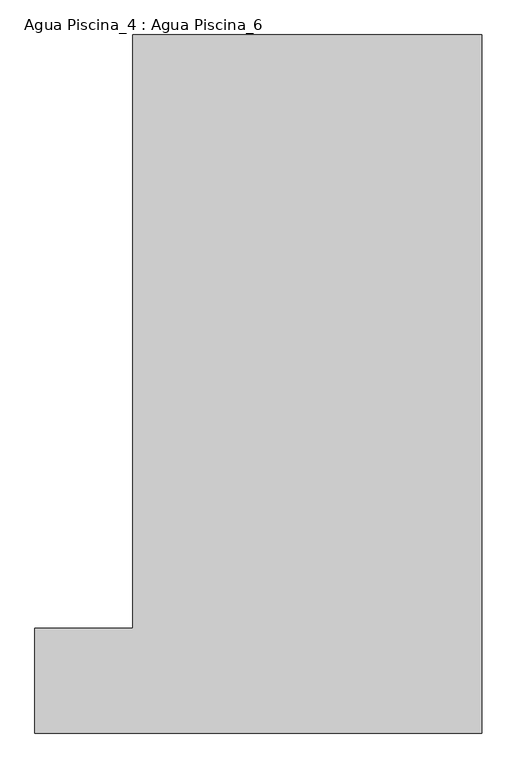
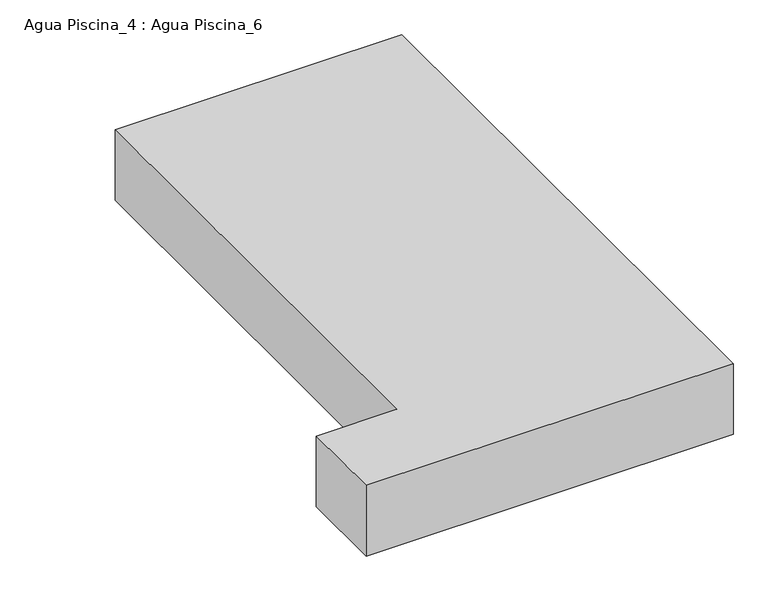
"""IFC4 building model written with IfcOpenShell, lengths in millimetres: proxy geometry, Agua Piscina_4 : Agua Piscina_6."""

from ifc_helpers import new_model, si_unit, frame, origin, place, context, project, spatial, polyline, outline, extrude, source, transform, mapped, element, save


def agua_piscina_4_agua_piscina_6_04886d29(model_context):
    return source(origin(), model_context, "Body", "SweptSolid", [
        extrude(outline(polyline([(14047.3446426, -26751.7608223), (15167.3446426, -26751.7608223), (15167.3446426, -19951.7608223), (19167.3446426, -19951.7608223), (19167.3446426, -27951.7608223), (14047.3446426, -27951.7608223), (14047.3446426, -26751.7608223)])), frame((0.0, 0.0, 16878.9496094), z_axis=(0.0, 0.0, 1.0), x_axis=(1.0, 0.0, 0.0)), (0.0, 0.0, 1.0), 1041.3308372),
    ])


if __name__ == "__main__":
    model = new_model("IFC4")
    model_context = context("Model", 3, world=origin())
    ifc_project = project(units=[si_unit("LENGTHUNIT", "METRE", prefix="MILLI")], contexts=[model_context])
    site = spatial("IfcSite", under=ifc_project)
    building = spatial("IfcBuilding", under=site)
    placement = place(None, origin())
    agua_piscina_4_agua_piscina_6_shape = agua_piscina_4_agua_piscina_6_04886d29(model_context)
    element("IfcBuildingElementProxy", 1, Name="Agua Piscina_4 : Agua Piscina_6", ObjectType="Agua Piscina_4 : Agua Piscina_6", at=placement, inside=building, context=model_context, shape_type="MappedRepresentation", body=[
        mapped(agua_piscina_4_agua_piscina_6_shape, transform((0.0, 0.0, 0.0), x_axis=(1.0, 0.0, 0.0), y_axis=(0.0, 1.0, 0.0), z_axis=(0.0, 0.0, 1.0))),
    ])
    save(model, "model.ifc")
